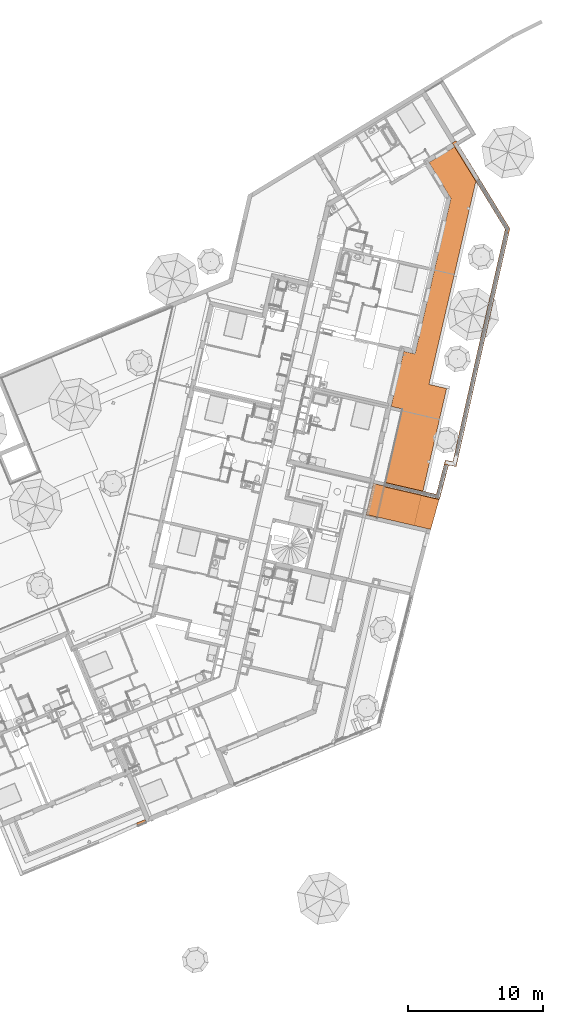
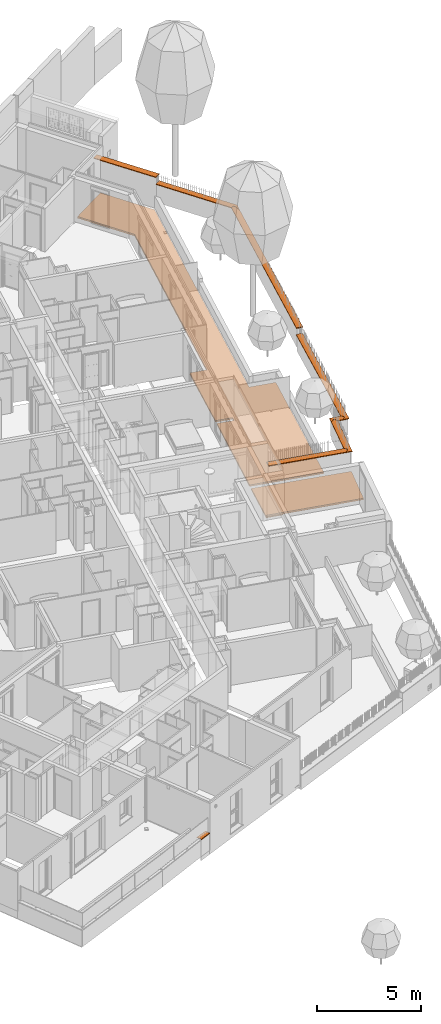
# One storey, part 119 of 119: 11 proxies.
"""IFC2X3 building model written with IfcOpenShell, lengths in metres."""

from ifc_helpers import new_model, entity, si_unit, converted_unit, derived_unit, money_unit, direction, frame, origin_with_axes, place, context, subcontext, project, spatial, faceted_brep, material, material_list, type_object, element, save


model = new_model("IFC2X3")

# Units and contexts
model_context = context("Model", 3, precision=1e-05, world=origin_with_axes(), true_north=direction((0.0, 1.0)))
body_context = subcontext(model_context, "Body", "Model", "MODEL_VIEW")
ifc_project = project(units=[si_unit("LENGTHUNIT", "METRE"), si_unit("AREAUNIT", "SQUARE_METRE"), si_unit("VOLUMEUNIT", "CUBIC_METRE"), converted_unit("PLANEANGLEUNIT", "DEGREE", entity("IfcPlaneAngleMeasure", 0.0174532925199), si_unit("PLANEANGLEUNIT", "RADIAN"), dimensions=[0, 0, 0, 0, 0, 0, 0]), si_unit("SOLIDANGLEUNIT", "STERADIAN"), money_unit("EUR"), converted_unit("TIMEUNIT", "Year", entity("IfcTimeMeasure", 31556926.0), si_unit("TIMEUNIT", "SECOND"), dimensions=[0, 0, 1, 0, 0, 0, 0]), si_unit("MASSUNIT", "GRAM", prefix="KILO"), si_unit("THERMODYNAMICTEMPERATUREUNIT", "DEGREE_CELSIUS"), si_unit("LUMINOUSINTENSITYUNIT", "LUMEN"), si_unit("ENERGYUNIT", "JOULE", prefix="MEGA"), derived_unit("THERMALCONDUCTANCEUNIT", [(si_unit("POWERUNIT", "WATT"), 1), (si_unit("LENGTHUNIT", "METRE"), -1), (si_unit("THERMODYNAMICTEMPERATUREUNIT", "KELVIN"), -1)]), derived_unit("SPECIFICHEATCAPACITYUNIT", [(si_unit("ENERGYUNIT", "JOULE"), 1), (si_unit("MASSUNIT", "GRAM", prefix="KILO"), -1), (si_unit("THERMODYNAMICTEMPERATUREUNIT", "KELVIN"), -1)]), derived_unit("MASSDENSITYUNIT", [(si_unit("MASSUNIT", "GRAM", prefix="KILO"), 1), (si_unit("VOLUMEUNIT", "CUBIC_METRE"), -1)])], contexts=[model_context])

# Site, building, storey
site_placement = place(None, origin_with_axes())
site = spatial("IfcSite", under=ifc_project, at=site_placement, Name="Site", CompositionType="ELEMENT")
building_placement = place(site_placement, origin_with_axes())
building = spatial("IfcBuilding", under=site, at=building_placement, Name="Bâtiment", CompositionType="ELEMENT")
storey_placement = place(building_placement, origin_with_axes())
storey = spatial("IfcBuildingStorey", under=building, at=storey_placement, Name="Rez-de-chaussée", CompositionType="ELEMENT", Elevation=0.0)

# Proxies
ifc_material_1 = material(Name="Métal - Aluminium")
building_element_proxy_type_1 = type_object("IfcBuildingElementProxyType", Name="Couvertine Métal 270 x 50", PredefinedType="USERDEFINED")
proxy_1_placement = place(storey_placement, frame((-20.8032625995, -28.4876818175, 1.0272978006), z_axis=(0.0, 0.0, 1.0), x_axis=(0.923701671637, 0.38311254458, 0.0)))
element("IfcBuildingElementProxy", 1, at=proxy_1_placement, inside=storey, type_object=building_element_proxy_type_1, material=ifc_material_1, Name="Couvertine métal laqué", ObjectType="CONSTRUCTION ELEMENT", context=body_context, shape_type="Brep", body=[
    faceted_brep([(0.680857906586, 0.245012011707, 0.002), (-0.00307442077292, 0.245012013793, 0.001999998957), (0.000313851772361, -0.025012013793, 0.001999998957), (0.680857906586, -0.025012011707, 0.002), (0.680857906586, 0.245012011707, -0.048), (-0.00307442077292, 0.245012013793, -0.048), (0.000209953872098, -0.0167320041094, -0.0416371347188), (0.000313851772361, -0.025012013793, -0.048), (-0.00297052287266, 0.236732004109, -0.0416371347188), (-0.00298269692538, 0.237702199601, -0.0399754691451), (-0.00305254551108, 0.243268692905, -0.0442531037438), (-0.00305254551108, 0.243268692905, 0.0), (0.000291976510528, -0.0232686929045, 0.0), (0.000291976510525, -0.0232686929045, -0.0442531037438), (0.000222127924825, -0.0177021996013, -0.0399754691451), (0.680857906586, -0.025012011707, -0.048), (0.680857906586, 0.237702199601, -0.0399754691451), (0.680857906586, 0.236732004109, -0.0416371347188), (0.680857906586, -0.0167320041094, -0.0416371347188), (0.680857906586, -0.0177021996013, -0.0399754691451), (0.680857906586, -0.0232686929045, -0.0442531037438), (0.680857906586, -0.0232686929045, 0.0), (0.680857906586, 0.243268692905, 0.0), (0.680857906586, 0.243268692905, -0.0442531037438)], [[[0, 1, 2, 3]], [[4, 5, 1, 0]], [[6, 7, 2, 1, 5, 8, 9, 10, 11, 12, 13, 14]], [[3, 2, 7, 15]], [[16, 17, 4, 0, 3, 15, 18, 19, 20, 21, 22, 23]], [[17, 8, 5, 4]], [[15, 7, 6, 18]], [[16, 9, 8, 17]], [[23, 10, 9, 16]], [[22, 11, 10, 23]], [[21, 12, 11, 22]], [[20, 13, 12, 21]], [[19, 14, 13, 20]], [[18, 6, 14, 19]]]),
])
ifc_material_2 = material(Name="Béton préfabriqué")
building_element_proxy_type_2 = type_object("IfcBuildingElementProxyType", Name="Couronnement mur 0401163462 330 x 60", PredefinedType="USERDEFINED")
proxy_2_placement = place(storey_placement, frame((2.07940070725, -1.58215810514, 1.2), z_axis=(0.0, 0.0, 1.0), x_axis=(-0.254419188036, -0.967094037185, 0.0)))
element("IfcBuildingElementProxy", 2, at=proxy_2_placement, inside=storey, type_object=building_element_proxy_type_2, material=ifc_material_2, Name="Chapeau béton préfa", ObjectType="ELEMENTS", context=body_context, shape_type="Brep", body=[
    faceted_brep([(2.78023641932, 0.165000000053, 0.0), (0.151971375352, 0.165000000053, 0.0), (0.15197137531, 0.164999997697, 0.039999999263), (2.78023641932, 0.165000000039, 0.0399999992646), (2.7902817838, -0.165000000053, 0.0), (0.179145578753, -0.164999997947, 0.0), (0.179145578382, -0.164999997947, 0.039999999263), (0.0271377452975, 0.0294642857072, 0.0600000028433), (2.64876370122, 0.0294642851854, 0.0600000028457), (2.7902817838, -0.165000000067, 0.0399999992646), (0.0319902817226, -0.0294642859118, 0.0600000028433), (2.6505575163, -0.0294642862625, 0.0600000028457)], [[[0, 1, 2, 3]], [[4, 5, 1, 0]], [[6, 2, 1, 5]], [[3, 2, 7, 8]], [[9, 4, 0, 3]], [[9, 6, 5, 4]], [[10, 7, 2, 6]], [[8, 7, 10, 11]], [[11, 9, 3, 8]], [[11, 10, 6, 9]]]),
])
proxy_3_placement = place(storey_placement, frame((2.07940070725, -1.58215810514, 1.2), z_axis=(0.0, 0.0, 1.0), x_axis=(0.984711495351, -0.17419319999, 0.0)))
element("IfcBuildingElementProxy", 3, at=proxy_3_placement, inside=storey, type_object=building_element_proxy_type_2, material=ifc_material_2, Name="Chapeau béton préfa", ObjectType="ELEMENTS", context=body_context, shape_type="Brep", body=[
    faceted_brep([(-0.0319902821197, -0.0294642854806, 0.0600000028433), (0.540850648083, -0.0294642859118, 0.0600000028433), (0.543497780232, 0.0294642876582, 0.0600000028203), (-0.0271377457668, 0.029464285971, 0.0600000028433), (-0.179145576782, -0.164999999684, 0.039999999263), (0.399089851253, -0.164999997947, 0.039999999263), (0.413913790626, 0.165000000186, 0.0399999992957), (-0.151971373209, 0.165000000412, 0.039999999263), (-0.179145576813, -0.165000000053, 0.0), (0.399089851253, -0.164999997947, 0.0), (0.41391379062, 0.165000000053, 0.0), (-0.151971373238, 0.165000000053, 0.0)], [[[0, 1, 2, 3]], [[4, 5, 1, 0]], [[5, 6, 2, 1]], [[3, 2, 6, 7]], [[7, 4, 0, 3]], [[8, 9, 5, 4]], [[9, 10, 6, 5]], [[7, 6, 10, 11]], [[8, 4, 7, 11]], [[11, 10, 9, 8]]]),
])
proxy_4_placement = place(storey_placement, frame((6.5684804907, 15.7272846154, 1.6), z_axis=(0.0, 0.0, 1.0), x_axis=(-0.22124302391, -0.975218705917, 0.0)))
element("IfcBuildingElementProxy", 4, at=proxy_4_placement, inside=storey, type_object=building_element_proxy_type_2, material=ifc_material_2, Name="Chapeau béton préfa", ObjectType="ELEMENTS", context=body_context, shape_type="Brep", body=[
    faceted_brep([(10.603466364, 0.165000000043, 0.0), (0.40659673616, 0.16499999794, 0.0), (0.40659673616, 0.16499999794, 0.0399999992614), (10.603466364, 0.165000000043, 0.04), (10.603466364, -0.165000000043, 0.0), (0.0669582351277, -0.165000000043, 0.0), (0.0669582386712, -0.1649999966, 0.0399999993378), (0.0726065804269, 0.0294642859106, 0.0600000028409), (10.603466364, 0.0294642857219, 0.0599999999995), (10.603466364, -0.0294642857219, 0.0599999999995), (10.603466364, -0.165000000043, 0.04), (0.0119568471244, -0.0294642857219, 0.0600000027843)], [[[0, 1, 2, 3]], [[4, 5, 1, 0]], [[6, 2, 1, 5]], [[3, 2, 7, 8]], [[9, 10, 4, 0, 3, 8]], [[10, 6, 5, 4]], [[11, 7, 2, 6]], [[8, 7, 11, 9]], [[9, 11, 6, 10]]]),
])
proxy_5_placement = place(storey_placement, frame((1.41277595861, -4.11612114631, 1.2), z_axis=(0.0, 0.0, 1.0), x_axis=(-0.974387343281, 0.224876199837, 0.0)))
element("IfcBuildingElementProxy", 5, at=proxy_5_placement, inside=storey, type_object=building_element_proxy_type_2, material=ifc_material_2, Name="Chapeau béton préfa", ObjectType="ELEMENTS", context=body_context, shape_type="Brep", body=[
    faceted_brep([(4.02900359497, 0.0294642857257, 0.0599999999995), (0.0303748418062, 0.029464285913, 0.0600000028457), (0.0285810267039, -0.0294642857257, 0.0600000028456), (4.02900359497, -0.0294642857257, 0.0599999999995), (4.02900359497, 0.165000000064, 0.04), (0.170099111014, 0.164999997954, 0.0399999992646), (0.160053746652, -0.164999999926, 0.0399999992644), (4.02900359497, -0.165000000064, 0.04), (4.02900359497, -0.165000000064, 0.0), (4.02900359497, 0.165000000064, 0.0), (0.170099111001, 0.164999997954, 0.0), (0.16005374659, -0.165000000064, 0.0)], [[[0, 1, 2, 3]], [[4, 5, 1, 0]], [[5, 6, 2, 1]], [[3, 2, 6, 7]], [[3, 7, 8, 9, 4, 0]], [[9, 10, 5, 4]], [[10, 11, 6, 5]], [[7, 6, 11, 8]], [[8, 11, 10, 9]]]),
])
proxy_6_placement = place(storey_placement, frame((4.39488144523, 19.2891462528, 2.0), z_axis=(0.0, 0.0, 1.0), x_axis=(-0.525575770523, 0.850746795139, 0.0)))
element("IfcBuildingElementProxy", 6, at=proxy_6_placement, inside=storey, type_object=building_element_proxy_type_2, material=ifc_material_2, Name="Chapeau béton préfa", ObjectType="ELEMENTS", context=body_context, shape_type="Brep", body=[
    faceted_brep([(0.0, -0.165000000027, 0.0), (3.39727228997, -0.165000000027, 0.0), (3.39727228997, -0.165000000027, 0.04), (0.0, -0.165000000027, 0.04), (0.0, 0.165000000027, 0.0), (3.39966782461, 0.165000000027, 0.0), (3.39868394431, 0.029464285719, 0.0599999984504), (3.39825617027, -0.029464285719, 0.0599999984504), (3.39966782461, 0.165000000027, 0.04), (0.0, -0.029464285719, 0.0599999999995), (0.0, 0.029464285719, 0.0599999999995), (0.0, 0.165000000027, 0.04)], [[[0, 1, 2, 3]], [[4, 5, 1, 0]], [[6, 7, 2, 1, 5, 8]], [[3, 2, 7, 9]], [[10, 11, 4, 0, 3, 9]], [[11, 8, 5, 4]], [[9, 7, 6, 10]], [[10, 6, 8, 11]]]),
])
proxy_7_placement = place(storey_placement, frame((4.39488144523, 19.2891462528, 1.6), z_axis=(0.0, 0.0, 1.0), x_axis=(0.520910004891, -0.853611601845, 0.0)))
element("IfcBuildingElementProxy", 7, at=proxy_7_placement, inside=storey, type_object=building_element_proxy_type_2, material=ifc_material_2, Name="Chapeau béton préfa", ObjectType="ELEMENTS", context=body_context, shape_type="Brep", body=[
    faceted_brep([(0.0, 0.02946428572, 0.0599999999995), (4.18465274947, 0.0294642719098, 0.0600000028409), (4.23965413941, 0.165000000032, 0.0399999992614), (0.0, 0.165000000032, 0.04), (0.0, -0.02946428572, 0.0599999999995), (4.24530248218, -0.0294642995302, 0.0600000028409), (4.57929264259, -0.165000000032, 0.0399999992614), (4.23965413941, 0.165000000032, 0.0), (0.0, 0.165000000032, 0.0), (0.0, -0.165000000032, 0.0), (0.0, -0.165000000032, 0.04), (4.57929264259, -0.165000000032, 0.0)], [[[0, 1, 2, 3]], [[4, 5, 1, 0]], [[6, 2, 1, 5]], [[3, 2, 7, 8]], [[0, 3, 8, 9, 10, 4]], [[10, 6, 5, 4]], [[11, 7, 2, 6]], [[8, 7, 11, 9]], [[9, 11, 6, 10]]]),
])
proxy_8_placement = place(storey_placement, frame((4.23014754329, 5.41956002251, 1.2), z_axis=(0.0, 0.0, 1.0), x_axis=(-0.218207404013, -0.97590241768, 0.0)))
element("IfcBuildingElementProxy", 8, at=proxy_8_placement, inside=storey, type_object=building_element_proxy_type_2, material=ifc_material_2, Name="Chapeau béton préfa", ObjectType="ELEMENTS", context=body_context, shape_type="Brep", body=[
    faceted_brep([(0.0, 0.0294642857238, 0.0599999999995), (7.30481891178, 0.029464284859, 0.0600000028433), (7.43440289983, 0.165000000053, 0.039999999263), (0.0, 0.165000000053, 0.04), (0.0, -0.0294642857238, 0.0599999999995), (7.30746604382, -0.0294642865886, 0.0600000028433), (7.44922683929, -0.165000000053, 0.039999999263), (7.43440289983, 0.165000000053, 0.0), (0.0, 0.165000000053, 0.0), (0.0, -0.165000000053, 0.0), (0.0, -0.165000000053, 0.04), (7.44922683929, -0.165000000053, 0.0)], [[[0, 1, 2, 3]], [[4, 5, 1, 0]], [[6, 2, 1, 5]], [[3, 2, 7, 8]], [[0, 3, 8, 9, 10, 4]], [[10, 6, 5, 4]], [[11, 7, 2, 6]], [[8, 7, 11, 9]], [[9, 11, 6, 10]]]),
])
ifc_material_3 = material(Name="Divers - Vide")
ifc_material_4 = material(Name="Etanchéité - Bitume")
ifc_material_list = material_list([ifc_material_3, ifc_material_4])
building_element_proxy_type_3 = type_object("IfcBuildingElementProxyType", Name="6 -Etanchéité RDC non isolée sous dalles sur plots 90", PredefinedType="NOTDEFINED")
proxy_9_placement = place(storey_placement, frame((-3.33562160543, -2.90196961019, 0.09), z_axis=(0.0, 0.0, 1.0), x_axis=(1.0, 0.0, 0.0)))
element("IfcBuildingElementProxy", 9, at=proxy_9_placement, inside=storey, type_object=building_element_proxy_type_3, material=ifc_material_list, Name="Dalle_004", context=body_context, shape_type="Brep", body=[
    faceted_brep([(0.821784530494, 3.51631923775, -0.08), (0.821784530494, 3.51631923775, 0.0), (1.23268233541, 5.27450256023, 0.0), (1.23268233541, 5.27450256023, -0.08), (0.0367289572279, 0.114677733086, 0.0), (0.0367289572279, 0.114677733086, -0.08), (0.0416009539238, 0.113553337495, 0.0), (0.0179889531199, 0.0112426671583, 0.0), (3.63041785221, -0.822459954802, 0.0), (5.39360887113, 6.81743708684, 0.0), (4.08814282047, 7.11872203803, 0.0), (7.56971630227, 22.2043608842, 0.0), (6.03292901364, 24.7324688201, 0.0), (5.34236218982, 24.3185923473, 0.0), (4.08641547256, 23.5552320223, 0.0), (5.70134518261, 20.8982093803, -2.28746385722e-09), (5.70878360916, 20.885971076, 0.0), (3.05282776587, 9.37772893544, 0.0), (3.04308388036, 9.37997769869, -2.26534710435e-09), (2.21893858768, 9.57017994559, 4.66245181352e-10), (1.58891963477, 6.84031126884, 0.0), (1.27765757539, 5.46938002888, 0.0), (1.28103071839, 5.48399583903, 0.0), (2.11491988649, 5.29154483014, 0.0), (2.11154674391, 5.27692902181, 0.0), (2.06657150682, 5.08205156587, 0.0), (2.06319836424, 5.06743575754, 0.0), (1.22930919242, 5.25988675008, 0.0), (1.22930919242, 5.25988675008, -0.08), (2.06319836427, 5.06743575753, -0.08), (2.06657150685, 5.08205156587, -0.08), (2.11154674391, 5.27692902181, -0.08), (2.11491988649, 5.29154483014, -0.08), (1.28103071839, 5.48399583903, -0.08), (1.27765757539, 5.46938002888, -0.08), (1.58891963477, 6.84031126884, -0.08), (2.21893858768, 9.57017994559, -0.08), (3.05282776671, 9.37772893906, -0.08), (5.70878361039, 20.8859710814, -0.08), (4.08641547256, 23.5552320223, -0.08), (5.34236218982, 24.3185923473, -0.08), (6.03292901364, 24.7324688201, -0.08), (7.56971630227, 22.2043608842, -0.08), (4.08814282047, 7.11872203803, -0.08), (5.39360887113, 6.81743708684, -0.08), (3.63041785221, -0.822459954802, -0.08), (0.0179889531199, 0.0112426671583, -0.08), (0.0416009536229, 0.113553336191, -0.08)], [[[0, 1, 2, 3]], [[4, 1, 0, 5]], [[1, 4, 6, 7, 8, 9, 10, 11, 12, 13, 14, 15, 16, 17, 18, 19, 20, 21, 22, 23, 24, 25, 26, 27, 2]], [[3, 2, 27, 28]], [[5, 0, 3, 28, 29, 30, 31, 32, 33, 34, 35, 36, 37, 38, 39, 40, 41, 42, 43, 44, 45, 46, 47]], [[4, 5, 47, 6]], [[46, 7, 6, 47]], [[45, 8, 7, 46]], [[9, 8, 45, 44]], [[9, 44, 43, 10]], [[42, 11, 10, 43]], [[12, 11, 42, 41]], [[12, 41, 40, 13]], [[14, 13, 40, 39]], [[14, 39, 38, 16, 15]], [[17, 16, 38, 37]], [[37, 36, 19, 18, 17]], [[19, 36, 35, 20]], [[20, 35, 34, 21]], [[22, 21, 34, 33]], [[23, 22, 33, 32]], [[24, 23, 32, 31]], [[24, 31, 30, 25]], [[26, 25, 30, 29]], [[27, 26, 29, 28]]]),
    faceted_brep([(0.0179889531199, 0.0112426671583, -0.08), (3.63041785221, -0.822459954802, -0.08), (5.38574437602, 6.78336027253, -0.08), (5.39360329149, 6.81743837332, -0.08), (4.08814282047, 7.11872203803, -0.08), (7.56971630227, 22.2043608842, -0.08), (6.03292901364, 24.7324688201, -0.08), (4.07309958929, 23.557886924, -0.08), (5.69812463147, 20.8842546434, -0.08), (3.045332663, 9.38972155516, -0.08), (2.21144348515, 9.58217256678, -0.08), (1.27765757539, 5.46938002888, -0.08), (1.28103071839, 5.48399583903, -0.08), (2.11491988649, 5.29154483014, -0.08), (2.11154674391, 5.27692902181, -0.08), (2.06657150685, 5.08205156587, -0.08), (2.06319836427, 5.06743575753, -0.08), (1.22930919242, 5.25988675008, -0.08), (1.23268233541, 5.27450256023, -0.08), (0.00341361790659, 0.0146064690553, -0.08), (0.01311699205, 0.0123670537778, -0.08), (0.0367289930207, 0.114677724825, -0.08), (0.0416009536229, 0.113553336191, -0.08), (0.0179889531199, 0.0112426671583, -0.0899999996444), (3.63041785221, -0.822459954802, -0.09), (5.38574437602, 6.78336027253, -0.09), (5.39360329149, 6.81743837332, -0.09), (4.08814282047, 7.11872203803, -0.09), (7.56971630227, 22.2043608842, -0.09), (6.03292901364, 24.7324688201, -0.09), (4.07309958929, 23.557886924, -0.09), (5.69812463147, 20.8842546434, -0.09), (3.045332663, 9.38972155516, -0.09), (2.21144348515, 9.58217256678, -0.09), (1.27765757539, 5.46938002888, -0.09), (1.28103071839, 5.48399583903, -0.09), (2.11491988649, 5.29154483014, -0.09), (2.11154674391, 5.27692902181, -0.09), (2.06657150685, 5.08205156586, -0.09), (2.06319836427, 5.06743575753, -0.09), (1.22930919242, 5.25988675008, -0.09), (1.23268233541, 5.27450256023, -0.09), (0.00341361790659, 0.0146064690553, -0.09), (0.01311699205, 0.0123670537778, -0.09), (0.0367289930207, 0.114677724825, -0.09), (0.0416009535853, 0.113553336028, -0.09)], [[[0, 1, 2, 3, 4, 5, 6, 7, 8, 9, 10, 11, 12, 13, 14, 15, 16, 17, 18, 19, 20, 21, 22]], [[23, 24, 1, 0]], [[24, 25, 2, 1]], [[3, 2, 25, 26]], [[4, 3, 26, 27]], [[4, 27, 28, 5]], [[28, 29, 6, 5]], [[30, 7, 6, 29]], [[8, 7, 30, 31]], [[9, 8, 31, 32]], [[10, 9, 32, 33]], [[11, 10, 33, 34]], [[11, 34, 35, 12]], [[12, 35, 36, 13]], [[13, 36, 37, 14]], [[37, 38, 15, 14]], [[16, 15, 38, 39]], [[17, 16, 39, 40]], [[41, 18, 17, 40]], [[18, 41, 42, 19]], [[42, 43, 20, 19]], [[21, 20, 43, 44]], [[21, 44, 45, 22]], [[45, 23, 0, 22]], [[26, 25, 24, 23, 45, 44, 43, 42, 41, 40, 39, 38, 37, 36, 35, 34, 33, 32, 31, 30, 29, 28, 27]]]),
])
building_element_proxy_type_4 = type_object("IfcBuildingElementProxyType", Name="6 -Etanchéité RDC protections multiples 90", PredefinedType="NOTDEFINED")
proxy_10_placement = place(storey_placement, frame((-0.340658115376, -6.3225692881, 0.04), z_axis=(0.0, 0.0, 1.0), x_axis=(1.0, 0.0, 0.0)))
element("IfcBuildingElementProxy", 10, at=proxy_10_placement, inside=storey, type_object=building_element_proxy_type_4, material=ifc_material_list, Name="Dalle_003", context=body_context, shape_type="Brep", body=[
    faceted_brep([(-3.03993873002, 3.22572220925, -0.07), (0.554284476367, 2.39622123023, -0.07), (0.554284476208, 2.39622122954, -0.08), (-3.0399387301, 3.22572220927, -0.08), (-3.04218749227, 3.21597833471, -0.07), (-3.02757168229, 3.21260519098, -0.07), (-3.02869608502, 3.20773326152, -0.07), (-2.19480691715, 3.01528226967, -0.07), (-2.20267758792, 2.98117869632, -0.07), (0.543016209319, 2.34750750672, -0.07), (0.543016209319, 2.34750750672, 0.0), (0.0179149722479, 0.0774480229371, 0.0), (0.0179149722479, 0.0774480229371, -0.08), (-2.7266391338, 0.710856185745, -0.08), (-2.74460230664, 0.633021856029, -0.08), (-3.57851790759, 0.825358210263, -0.08), (-3.02757168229, 3.21260519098, -0.08), (-3.04218749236, 3.21597833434, -0.08), (-3.57851837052, 0.825356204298, -0.07), (-3.56052827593, 0.903307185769, -0.07), (-3.56052827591, 0.903307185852, 0.0), (-3.0286960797, 3.20773326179, -1.11077161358e-09), (-2.19480691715, 3.01528226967, -6.00066801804e-10), (-2.20267758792, 2.98117869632, 0.0), (-2.72663913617, 0.710856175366, -0.07), (-2.74460230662, 0.633021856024, -0.07)], [[[0, 1, 2, 3]], [[1, 0, 4, 5, 6, 7, 8, 9]], [[9, 10, 11, 12, 2, 1]], [[13, 14, 15, 16, 17, 3, 2, 12]], [[4, 0, 3, 17]], [[5, 4, 17, 16]], [[6, 5, 16, 15, 18, 19, 20, 21]], [[21, 22, 7, 6]], [[7, 22, 23, 8]], [[23, 10, 9, 8]], [[22, 21, 20, 11, 10, 23]], [[11, 20, 19, 24, 13, 12]], [[24, 25, 14, 13]], [[25, 18, 15, 14]], [[25, 24, 19, 18]]]),
    faceted_brep([(-2.74460230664, 0.633021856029, -0.08), (-2.7266391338, 0.710856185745, -0.08), (0.0179149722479, 0.0774480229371, -0.08), (0.554284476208, 2.39622122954, -0.08), (-3.0399387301, 3.22572220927, -0.08), (-3.04218749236, 3.21597833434, -0.08), (-3.02757168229, 3.21260519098, -0.08), (-3.57851790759, 0.825358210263, -0.08), (-2.74460230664, 0.633021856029, -0.09), (-2.7266391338, 0.710856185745, -0.09), (0.0179149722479, 0.0774480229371, -0.09), (0.554284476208, 2.39622122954, -0.09), (-3.0399387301, 3.22572220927, -0.09), (-3.04218749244, 3.21597833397, -0.09), (-3.02757168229, 3.21260519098, -0.09), (-3.57851790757, 0.825358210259, -0.09)], [[[0, 1, 2, 3, 4, 5, 6, 7]], [[1, 0, 8, 9]], [[10, 2, 1, 9]], [[2, 10, 11, 3]], [[3, 11, 12, 4]], [[13, 5, 4, 12]], [[6, 5, 13, 14]], [[7, 6, 14, 15]], [[8, 0, 7, 15]], [[9, 8, 15, 14, 13, 12, 11, 10]]]),
])
ifc_material_5 = material(Name="Béton")
building_element_proxy_type_5 = type_object("IfcBuildingElementProxyType", Name="Béton 90", PredefinedType="NOTDEFINED")
proxy_11_placement = place(storey_placement, frame((-3.37047861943, -3.11970795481, 0.05), z_axis=(0.0, 0.0, 1.0), x_axis=(1.0, 0.0, 0.0)))
element("IfcBuildingElementProxy", 11, at=proxy_11_placement, inside=storey, type_object=building_element_proxy_type_5, material=ifc_material_5, Name="Dalle_003", context=body_context, shape_type="Brep", body=[
    faceted_brep([(0.0, 0.0, 0.0), (0.0, 0.0, -0.09), (-0.530707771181, -2.29955414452, -0.09), (-0.530707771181, -2.29955414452, 0.0), (4.87752796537, -1.15645996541, 0.0), (4.87752796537, -1.15645996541, -0.09), (4.25318515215, -3.403615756, -0.09), (4.25318515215, -3.403615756, 0.0)], [[[0, 1, 2, 3]], [[4, 5, 1, 0]], [[2, 1, 5, 6]], [[3, 2, 6, 7]], [[4, 0, 3, 7]], [[7, 6, 5, 4]]]),
])

save(model, "model.ifc")
